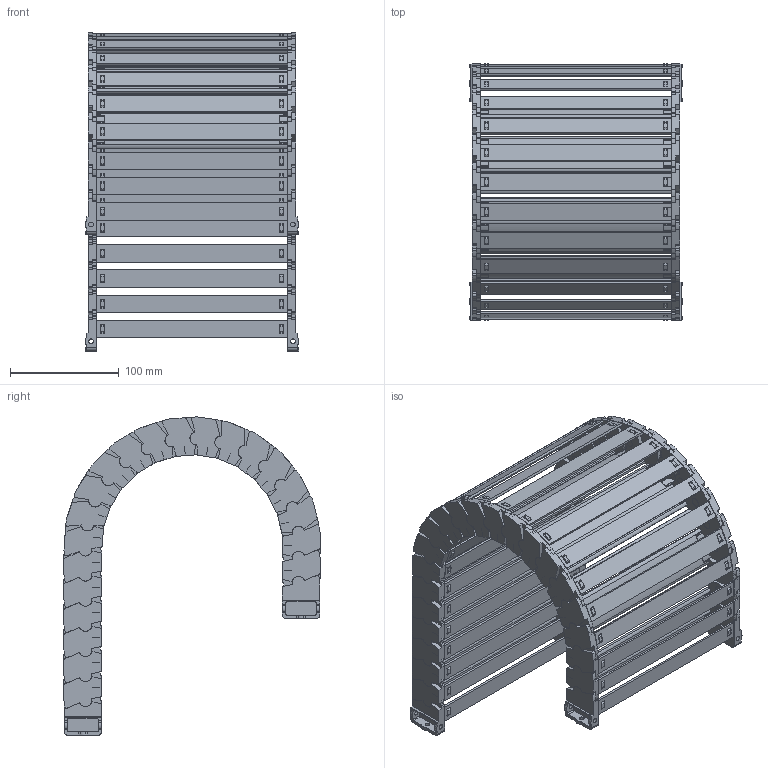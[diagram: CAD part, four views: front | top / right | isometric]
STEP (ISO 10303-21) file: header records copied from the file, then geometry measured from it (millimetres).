
FILE_DESCRIPTION((''),'2;1');
FILE_NAME('JY-25X175-R100_ASM','2026-05-04T14:03:02',('admin'),(''),'CREO PARAMETRIC BY PTC INC, 2021023','CREO PARAMETRIC BY PTC INC, 2021023','');
FILE_SCHEMA(('CONFIG_CONTROL_DESIGN'));
Length unit declared in the file: millimetre
Products named in the file (11): 25XL-L; 25-35XL-YP; 25XL-R; ASM0001_ASM; 25-LTT-A-L; 25-LTT-A-R; 25XL-LTT-A_ASM; 25-LTT-B-L; 25-LTT-B-R; 25XL-LTT-B_ASM; JY-25X175-R100_ASM
Assembly tree (35 placements, depth 3):
  JY-25X175-R100_ASM
    ASM0001_ASM  x21
      25XL-L
      25-35XL-YP
      25XL-R
    25XL-LTT-A_ASM
      25-LTT-A-L
      25-35XL-YP  x2
      25-LTT-A-R
    25XL-LTT-B_ASM
      25-LTT-B-L
      25-35XL-YP  x2
      25-LTT-B-R
Bounding box: 196.68 x 235.5 x 292.58 mm (x, y, z)
Volume: 673839.8 mm3; surface area: 489563.7 mm2
Topology: 92 solids, 113 shells, 4780 faces, 14283 edges, 9664 vertices
Faces by surface type: plane 3523, cylinder 1215, cone 42
Entity records: 17459 total; most frequent: CARTESIAN_POINT 3073, DIRECTION 3021, ORIENTED_EDGE 2962, EDGE_CURVE 1483, VECTOR 1053, LINE 1053, VERTEX_POINT 1004, AXIS2_PLACEMENT_3D 984
